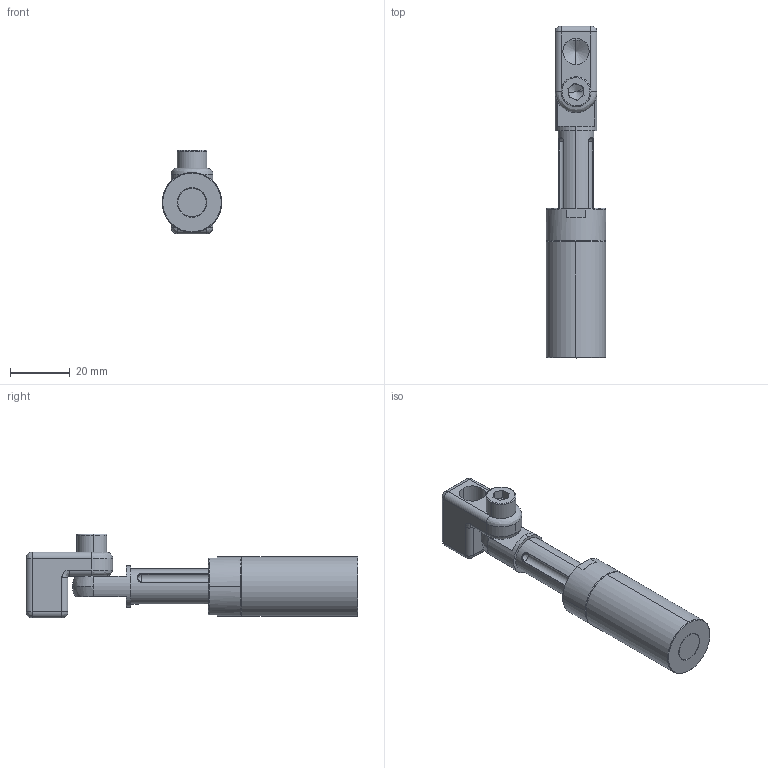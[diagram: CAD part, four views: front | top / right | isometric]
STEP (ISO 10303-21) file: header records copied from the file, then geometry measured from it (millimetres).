
FILE_DESCRIPTION (( 'STEP AP214' ), '1' );
FILE_NAME ('VFE2026-G18.STEP', '2019-11-15T07:02:00', ( '微软用户' ), ( '微软中国' ), 'SwSTEP 2.0', 'SolidWorks 2016', '' );
FILE_SCHEMA (( 'AUTOMOTIVE_DESIGN' ));
Length unit declared in the file: millimetre
Products named in the file (1): VFE2026-G18
Bounding box: 20 x 111 x 28 mm (x, y, z)
Volume: 22941.7 mm3; surface area: 14304.7 mm2
Topology: 5 solids, 5 shells, 247 faces, 588 edges, 352 vertices
Faces by surface type: cylinder 101, cone 58, plane 51, bspline 37
Entity records: 16223 total; most frequent: CARTESIAN_POINT 8084, ORIENTED_EDGE 1152, DIRECTION 1076, EDGE_CURVE 576, AXIS2_PLACEMENT_3D 428, VERTEX_POINT 352, EDGE_LOOP 276, UNCERTAINTY_MEASURE_WITH_UNIT 254
